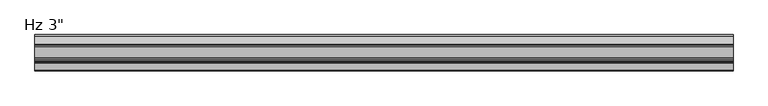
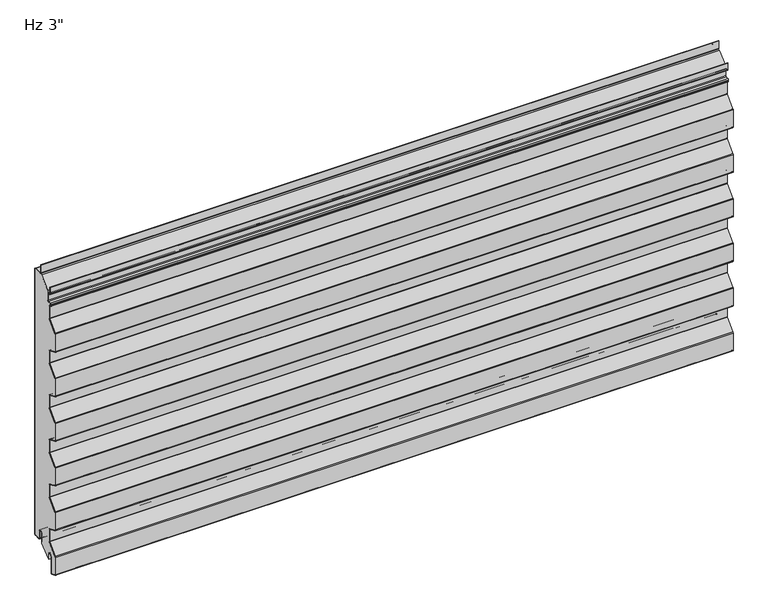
"""IFC4 building model written with IfcOpenShell, lengths in millimetres: plate geometry."""

from ifc_helpers import new_model, si_unit, point, frame, frame_2d, origin, place, context, project, spatial, polyline, circle_curve, trimmed, segment, composite_curve, outline, extrude, source, transform, mapped, element, save


def plate_802be9a2(model_context):
    return source(origin(), model_context, "Body", "SweptSolid", [
        extrude(outline(composite_curve([segment(polyline([(-26.4011912, 19.05), (-26.4011912, -3.1976612), (-49.233822, -23.01875), (-51.3886912, -23.01875), (-51.3886912, -11.90625)]), True, "CONTINUOUS"), segment(trimmed(circle_curve(frame_2d((-56.3574412, -11.90625)), 4.96875), [point((-51.3886912, -11.90625))], [point((-61.3261912, -11.90625))], True, "CARTESIAN"), True, "CONTINUOUS"), segment(polyline([(-61.3261912, -11.90625), (-61.3261912, -48.8194049)]), True, "CONTINUOUS"), segment(trimmed(circle_curve(frame_2d((-62.7074412, -48.8194049)), 1.38125), [point((-61.3261912, -48.8194049))], [point((-63.2666208, -50.0824052))], False, "CARTESIAN"), True, "CONTINUOUS"), segment(polyline([(-63.2666208, -50.0824052), (-74.3779296, -45.1629946)]), True, "CONTINUOUS"), segment(trimmed(circle_curve(frame_2d((-73.81875, -43.8999943)), 1.38125), [point((-74.3779296, -45.1629946))], [point((-75.2, -43.8999943))], False, "CARTESIAN"), True, "CONTINUOUS"), segment(polyline([(-75.2, -43.8999943), (-75.2, -5.0536946)]), True, "CONTINUOUS"), segment(trimmed(circle_curve(frame_2d((-73.1012, -5.0536946)), 2.0988), [point((-75.2, -5.0536946))], [point((-74.6092077, -3.5939431))], False, "CARTESIAN"), True, "CONTINUOUS"), segment(polyline([(-74.6092077, -3.5939431), (-54.4145567, 17.2682996)]), True, "CONTINUOUS"), segment(trimmed(circle_curve(frame_2d((-56.2737, 19.0679503)), 2.5875), [point((-54.4145567, 17.2682996))], [point((-53.6862, 19.0679503))], True, "CARTESIAN"), True, "CONTINUOUS"), segment(polyline([(-53.6862, 19.0679503), (-53.6862, 45.5917981)]), True, "CONTINUOUS"), segment(trimmed(circle_curve(frame_2d((-56.2737, 45.5917981)), 2.5875), [point((-53.6862, 45.5917981))], [point((-55.2261871, 47.9577806))], True, "CARTESIAN"), True, "CONTINUOUS"), segment(polyline([(-55.2261871, 47.9577806), (-74.3779296, 56.4370054)]), True, "CONTINUOUS"), segment(trimmed(circle_curve(frame_2d((-73.81875, 57.7000057)), 1.38125), [point((-74.3779296, 56.4370054))], [point((-75.2, 57.7000057))], False, "CARTESIAN"), True, "CONTINUOUS"), segment(polyline([(-75.2, 57.7000057), (-75.2, 96.8367131)]), True, "CONTINUOUS"), segment(trimmed(circle_curve(frame_2d((-73.81875, 96.8367131)), 1.38125), [point((-75.2, 96.8367131))], [point((-74.8111912, 97.7973962))], False, "CARTESIAN"), True, "CONTINUOUS"), segment(polyline([(-74.8111912, 97.7973962), (-54.4145567, 118.8682996)]), True, "CONTINUOUS"), segment(trimmed(circle_curve(frame_2d((-56.2737, 120.6679503)), 2.5875), [point((-54.4145567, 118.8682996))], [point((-53.6862, 120.6679503))], True, "CARTESIAN"), True, "CONTINUOUS"), segment(polyline([(-53.6862, 120.6679503), (-53.6862, 147.1917981)]), True, "CONTINUOUS"), segment(trimmed(circle_curve(frame_2d((-56.2737, 147.1917981)), 2.5875), [point((-53.6862, 147.1917981))], [point((-55.2261871, 149.5577806))], True, "CARTESIAN"), True, "CONTINUOUS"), segment(polyline([(-55.2261871, 149.5577806), (-74.3779296, 158.0370054)]), True, "CONTINUOUS"), segment(trimmed(circle_curve(frame_2d((-73.81875, 159.3000057)), 1.38125), [point((-74.3779296, 158.0370054))], [point((-75.2, 159.3000057))], False, "CARTESIAN"), True, "CONTINUOUS"), segment(polyline([(-75.2, 159.3000057), (-75.2, 198.4367131)]), True, "CONTINUOUS"), segment(trimmed(circle_curve(frame_2d((-73.81875, 198.4367131)), 1.38125), [point((-75.2, 198.4367131))], [point((-74.8111912, 199.3973962))], False, "CARTESIAN"), True, "CONTINUOUS"), segment(polyline([(-74.8111912, 199.3973962), (-54.4145567, 220.4682996)]), True, "CONTINUOUS"), segment(trimmed(circle_curve(frame_2d((-56.2737, 222.2679503)), 2.5875), [point((-54.4145567, 220.4682996))], [point((-53.6862, 222.2679503))], True, "CARTESIAN"), True, "CONTINUOUS"), segment(polyline([(-53.6862, 222.2679503), (-53.6862, 248.7917981)]), True, "CONTINUOUS"), segment(trimmed(circle_curve(frame_2d((-56.2737, 248.7917981)), 2.5875), [point((-53.6862, 248.7917981))], [point((-55.2261871, 251.1577806))], True, "CARTESIAN"), True, "CONTINUOUS"), segment(polyline([(-55.2261871, 251.1577806), (-74.3779296, 259.6370054)]), True, "CONTINUOUS"), segment(trimmed(circle_curve(frame_2d((-73.81875, 260.9000057)), 1.38125), [point((-74.3779296, 259.6370054))], [point((-75.2, 260.9000057))], False, "CARTESIAN"), True, "CONTINUOUS"), segment(polyline([(-75.2, 260.9000057), (-75.2, 300.0367131)]), True, "CONTINUOUS"), segment(trimmed(circle_curve(frame_2d((-73.81875, 300.0367131)), 1.38125), [point((-75.2, 300.0367131))], [point((-74.8111912, 300.9973962))], False, "CARTESIAN"), True, "CONTINUOUS"), segment(polyline([(-74.8111912, 300.9973962), (-54.4145567, 322.0682996)]), True, "CONTINUOUS"), segment(trimmed(circle_curve(frame_2d((-56.2737, 323.8679503)), 2.5875), [point((-54.4145567, 322.0682996))], [point((-53.6862, 323.8679503))], True, "CARTESIAN"), True, "CONTINUOUS"), segment(polyline([(-53.6862, 323.8679503), (-53.6862, 350.3917981)]), True, "CONTINUOUS"), segment(trimmed(circle_curve(frame_2d((-56.2737, 350.3917981)), 2.5875), [point((-53.6862, 350.3917981))], [point((-55.2261871, 352.7577806))], True, "CARTESIAN"), True, "CONTINUOUS"), segment(polyline([(-55.2261871, 352.7577806), (-74.3779296, 361.2370054)]), True, "CONTINUOUS"), segment(trimmed(circle_curve(frame_2d((-73.81875, 362.5000057)), 1.38125), [point((-74.3779296, 361.2370054))], [point((-75.2, 362.5000057))], False, "CARTESIAN"), True, "CONTINUOUS"), segment(polyline([(-75.2, 362.5000057), (-75.2, 401.6367131)]), True, "CONTINUOUS"), segment(trimmed(circle_curve(frame_2d((-73.81875, 401.6367131)), 1.38125), [point((-75.2, 401.6367131))], [point((-74.8111912, 402.5973962))], False, "CARTESIAN"), True, "CONTINUOUS"), segment(polyline([(-74.8111912, 402.5973962), (-54.4145567, 423.6682996)]), True, "CONTINUOUS"), segment(trimmed(circle_curve(frame_2d((-56.2737, 425.4679503)), 2.5875), [point((-54.4145567, 423.6682996))], [point((-53.6862, 425.4679503))], True, "CARTESIAN"), True, "CONTINUOUS"), segment(polyline([(-53.6862, 425.4679503), (-53.6862, 451.9917981)]), True, "CONTINUOUS"), segment(trimmed(circle_curve(frame_2d((-56.2737, 451.9917981)), 2.5875), [point((-53.6862, 451.9917981))], [point((-55.2261871, 454.3577806))], True, "CARTESIAN"), True, "CONTINUOUS"), segment(polyline([(-55.2261871, 454.3577806), (-74.3779296, 462.8370054)]), True, "CONTINUOUS"), segment(trimmed(circle_curve(frame_2d((-73.81875, 464.1000057)), 1.38125), [point((-74.3779296, 462.8370054))], [point((-75.2, 464.1000057))], False, "CARTESIAN"), True, "CONTINUOUS"), segment(polyline([(-75.2, 464.1000057), (-75.2, 503.2367131)]), True, "CONTINUOUS"), segment(trimmed(circle_curve(frame_2d((-73.81875, 503.2367131)), 1.38125), [point((-75.2, 503.2367131))], [point((-74.8111912, 504.1973962))], False, "CARTESIAN"), True, "CONTINUOUS"), segment(polyline([(-74.8111912, 504.1973962), (-54.4145567, 525.2682996)]), True, "CONTINUOUS"), segment(trimmed(circle_curve(frame_2d((-56.2737, 527.0679503)), 2.5875), [point((-54.4145567, 525.2682996))], [point((-53.6862, 527.0679503))], True, "CARTESIAN"), True, "CONTINUOUS"), segment(polyline([(-53.6862, 527.0679503), (-53.6862, 553.5917981)]), True, "CONTINUOUS"), segment(trimmed(circle_curve(frame_2d((-56.2737, 553.5917981)), 2.5875), [point((-53.6862, 553.5917981))], [point((-55.2261871, 555.9577806))], True, "CARTESIAN"), True, "CONTINUOUS"), segment(polyline([(-55.2261871, 555.9577806), (-56.9166208, 556.7062016)]), True, "CONTINUOUS"), segment(trimmed(circle_curve(frame_2d((-56.3574412, 557.9692019)), 1.38125), [point((-56.9166208, 556.7062016))], [point((-57.7386912, 557.9692019))], False, "CARTESIAN"), True, "CONTINUOUS"), segment(polyline([(-57.7386912, 557.9692019), (-57.7386912, 560.2967085)]), True, "CONTINUOUS"), segment(trimmed(circle_curve(frame_2d((-56.3574412, 560.2967085)), 1.38125), [point((-57.7386912, 560.2967085))], [point((-56.4297302, 561.6760655))], False, "CARTESIAN"), True, "CONTINUOUS"), segment(polyline([(-56.4297302, 561.6760655), (-50.6657719, 561.9781418)]), True, "CONTINUOUS"), segment(trimmed(circle_curve(frame_2d((-50.8011912, 564.5620957)), 2.5875), [point((-50.6657719, 561.9781418))], [point((-48.2136912, 564.5620957))], True, "CARTESIAN"), True, "CONTINUOUS"), segment(polyline([(-48.2136912, 564.5620957), (-48.2136912, 586.9892934), (-24.8719682, 607.80625), (-2.3824412, 607.80625)]), True, "CONTINUOUS"), segment(trimmed(circle_curve(frame_2d((-2.3824412, 606.425)), 1.38125), [point((-2.3824412, 607.80625))], [point((-1.0011912, 606.425))], False, "CARTESIAN"), True, "CONTINUOUS"), segment(polyline([(-1.0011912, 606.425), (-1.0011912, 3.175)]), True, "CONTINUOUS"), segment(trimmed(circle_curve(frame_2d((-2.3824412, 3.175)), 1.38125), [point((-1.0011912, 3.175))], [point((-2.3824412, 1.79375))], False, "CARTESIAN"), True, "CONTINUOUS"), segment(polyline([(-2.3824412, 1.79375), (-15.0824412, 1.79375)]), True, "CONTINUOUS"), segment(trimmed(circle_curve(frame_2d((-15.0824412, 3.175)), 1.38125), [point((-15.0824412, 1.79375))], [point((-16.4636912, 3.175))], False, "CARTESIAN"), True, "CONTINUOUS"), segment(polyline([(-16.4636912, 3.175), (-16.4636912, 19.05)]), True, "CONTINUOUS"), segment(trimmed(circle_curve(frame_2d((-21.4324412, 19.05)), 4.96875), [point((-16.4636912, 19.05))], [point((-26.4011912, 19.05))], True, "CARTESIAN"), True, "CONTINUOUS")], self_intersect=False)), frame((-730.0, 0.0, 0.0), z_axis=(1.0, 0.0, 0.0), x_axis=(0.0, 1.0, 0.0)), (0.0, 0.0, 1.0), 1460.0),
        extrude(outline(composite_curve([segment(polyline([(-25.4, 0.79375), (-26.4, 0.79375), (-26.4, 19.05)]), True, "CONTINUOUS"), segment(trimmed(circle_curve(frame_2d((-21.43125, 19.05)), 4.96875), [point((-26.4, 19.05))], [point((-16.4625, 19.05))], False, "CARTESIAN"), True, "CONTINUOUS"), segment(polyline([(-16.4625, 19.05), (-16.4625, 3.175)]), True, "CONTINUOUS"), segment(trimmed(circle_curve(frame_2d((-15.08125, 3.175)), 1.38125), [point((-16.4625, 3.175))], [point((-15.08125, 1.79375))], True, "CARTESIAN"), True, "CONTINUOUS"), segment(polyline([(-15.08125, 1.79375), (-2.38125, 1.79375)]), True, "CONTINUOUS"), segment(trimmed(circle_curve(frame_2d((-2.38125, 3.175)), 1.38125), [point((-2.38125, 1.79375))], [point((-1.0, 3.175))], True, "CARTESIAN"), True, "CONTINUOUS"), segment(polyline([(-1.0, 3.175), (-1.0, 606.425)]), True, "CONTINUOUS"), segment(trimmed(circle_curve(frame_2d((-2.38125, 606.425)), 1.38125), [point((-1.0, 606.425))], [point((-2.38125, 607.80625))], True, "CARTESIAN"), True, "CONTINUOUS"), segment(polyline([(-2.38125, 607.80625), (-19.446875, 607.80625)]), True, "CONTINUOUS"), segment(trimmed(circle_curve(frame_2d((-19.446875, 610.39375)), 2.5875), [point((-19.446875, 607.80625))], [point((-22.034375, 610.39375))], False, "CARTESIAN"), True, "CONTINUOUS"), segment(polyline([(-22.034375, 610.39375), (-22.034375, 627.85625), (-21.034375, 627.85625), (-21.034375, 610.39375)]), True, "CONTINUOUS"), segment(trimmed(circle_curve(frame_2d((-19.446875, 610.39375)), 1.5875), [point((-21.034375, 610.39375))], [point((-19.446875, 608.80625))], True, "CARTESIAN"), True, "CONTINUOUS"), segment(polyline([(-19.446875, 608.80625), (-2.38125, 608.80625)]), True, "CONTINUOUS"), segment(trimmed(circle_curve(frame_2d((-2.38125, 606.425)), 2.38125), [point((-2.38125, 608.80625))], [point((0.0, 606.425))], False, "CARTESIAN"), True, "CONTINUOUS"), segment(polyline([(0.0, 606.425), (0.0, 3.175)]), True, "CONTINUOUS"), segment(trimmed(circle_curve(frame_2d((-2.38125, 3.175)), 2.38125), [point((0.0, 3.175))], [point((-2.38125, 0.79375))], False, "CARTESIAN"), True, "CONTINUOUS"), segment(polyline([(-2.38125, 0.79375), (-15.08125, 0.79375)]), True, "CONTINUOUS"), segment(trimmed(circle_curve(frame_2d((-15.08125, 3.175)), 2.38125), [point((-15.08125, 0.79375))], [point((-17.4625, 3.175))], False, "CARTESIAN"), True, "CONTINUOUS"), segment(polyline([(-17.4625, 3.175), (-17.4625, 19.05)]), True, "CONTINUOUS"), segment(trimmed(circle_curve(frame_2d((-21.43125, 19.05)), 3.96875), [point((-17.4625, 19.05))], [point((-25.4, 19.05))], True, "CARTESIAN"), True, "CONTINUOUS"), segment(polyline([(-25.4, 19.05), (-25.4, 0.79375)]), True, "CONTINUOUS")], self_intersect=False)), frame((-730.0, 0.0, 0.0), z_axis=(1.0, 0.0, 0.0), x_axis=(0.0, 1.0, 0.0)), (0.0, 0.0, 1.0), 1460.0),
        extrude(outline(composite_curve([segment(polyline([(-60.3261912, -11.90625), (-60.3261912, -48.8194049)]), True, "CONTINUOUS"), segment(trimmed(circle_curve(frame_2d((-62.7074412, -48.8194049)), 2.38125), [point((-60.3261912, -48.8194049))], [point((-63.6714567, -50.9967946))], False, "CARTESIAN"), True, "CONTINUOUS"), segment(polyline([(-63.6714567, -50.9967946), (-74.7827655, -46.0773839)]), True, "CONTINUOUS"), segment(trimmed(circle_curve(frame_2d((-73.81875, -43.8999943)), 2.38125), [point((-74.7827655, -46.0773839))], [point((-76.2, -43.8999943))], False, "CARTESIAN"), True, "CONTINUOUS"), segment(polyline([(-76.2, -43.8999943), (-76.2, -5.0536946)]), True, "CONTINUOUS"), segment(trimmed(circle_curve(frame_2d((-73.1012, -5.0536946)), 3.0988), [point((-76.2, -5.0536946))], [point((-75.3277172, -2.8984259))], False, "CARTESIAN"), True, "CONTINUOUS"), segment(polyline([(-75.3277172, -2.8984259), (-55.1330662, 17.9638168)]), True, "CONTINUOUS"), segment(trimmed(circle_curve(frame_2d((-56.2737, 19.0679503)), 1.5875), [point((-55.1330662, 17.9638168))], [point((-54.6862, 19.0679503))], True, "CARTESIAN"), True, "CONTINUOUS"), segment(polyline([(-54.6862, 19.0679503), (-54.6862, 45.5917981)]), True, "CONTINUOUS"), segment(trimmed(circle_curve(frame_2d((-56.2737, 45.5917981)), 1.5875), [point((-54.6862, 45.5917981))], [point((-55.631023, 47.0433912))], True, "CARTESIAN"), True, "CONTINUOUS"), segment(polyline([(-55.631023, 47.0433912), (-74.7827655, 55.5226161)]), True, "CONTINUOUS"), segment(trimmed(circle_curve(frame_2d((-73.81875, 57.7000057)), 2.38125), [point((-74.7827655, 55.5226161))], [point((-76.2, 57.7000057))], False, "CARTESIAN"), True, "CONTINUOUS"), segment(polyline([(-76.2, 57.7000057), (-76.2, 96.8367131)]), True, "CONTINUOUS"), segment(trimmed(circle_curve(frame_2d((-73.81875, 96.8367131)), 2.38125), [point((-76.2, 96.8367131))], [point((-75.5297007, 98.4929134))], False, "CARTESIAN"), True, "CONTINUOUS"), segment(polyline([(-75.5297007, 98.4929134), (-55.1330662, 119.5638168)]), True, "CONTINUOUS"), segment(trimmed(circle_curve(frame_2d((-56.2737, 120.6679503)), 1.5875), [point((-55.1330662, 119.5638168))], [point((-54.6862, 120.6679503))], True, "CARTESIAN"), True, "CONTINUOUS"), segment(polyline([(-54.6862, 120.6679503), (-54.6862, 147.1917981)]), True, "CONTINUOUS"), segment(trimmed(circle_curve(frame_2d((-56.2737, 147.1917981)), 1.5875), [point((-54.6862, 147.1917981))], [point((-55.631023, 148.6433912))], True, "CARTESIAN"), True, "CONTINUOUS"), segment(polyline([(-55.631023, 148.6433912), (-74.7827655, 157.1226161)]), True, "CONTINUOUS"), segment(trimmed(circle_curve(frame_2d((-73.81875, 159.3000057)), 2.38125), [point((-74.7827655, 157.1226161))], [point((-76.2, 159.3000057))], False, "CARTESIAN"), True, "CONTINUOUS"), segment(polyline([(-76.2, 159.3000057), (-76.2, 198.4367131)]), True, "CONTINUOUS"), segment(trimmed(circle_curve(frame_2d((-73.81875, 198.4367131)), 2.38125), [point((-76.2, 198.4367131))], [point((-75.5297007, 200.0929134))], False, "CARTESIAN"), True, "CONTINUOUS"), segment(polyline([(-75.5297007, 200.0929134), (-55.1330662, 221.1638168)]), True, "CONTINUOUS"), segment(trimmed(circle_curve(frame_2d((-56.2737, 222.2679503)), 1.5875), [point((-55.1330662, 221.1638168))], [point((-54.6862, 222.2679503))], True, "CARTESIAN"), True, "CONTINUOUS"), segment(polyline([(-54.6862, 222.2679503), (-54.6862, 248.7917981)]), True, "CONTINUOUS"), segment(trimmed(circle_curve(frame_2d((-56.2737, 248.7917981)), 1.5875), [point((-54.6862, 248.7917981))], [point((-55.631023, 250.2433912))], True, "CARTESIAN"), True, "CONTINUOUS"), segment(polyline([(-55.631023, 250.2433912), (-74.7827655, 258.7226161)]), True, "CONTINUOUS"), segment(trimmed(circle_curve(frame_2d((-73.81875, 260.9000057)), 2.38125), [point((-74.7827655, 258.7226161))], [point((-76.2, 260.9000057))], False, "CARTESIAN"), True, "CONTINUOUS"), segment(polyline([(-76.2, 260.9000057), (-76.2, 300.0367131)]), True, "CONTINUOUS"), segment(trimmed(circle_curve(frame_2d((-73.81875, 300.0367131)), 2.38125), [point((-76.2, 300.0367131))], [point((-75.5297007, 301.6929134))], False, "CARTESIAN"), True, "CONTINUOUS"), segment(polyline([(-75.5297007, 301.6929134), (-55.1330662, 322.7638168)]), True, "CONTINUOUS"), segment(trimmed(circle_curve(frame_2d((-56.2737, 323.8679503)), 1.5875), [point((-55.1330662, 322.7638168))], [point((-54.6862, 323.8679503))], True, "CARTESIAN"), True, "CONTINUOUS"), segment(polyline([(-54.6862, 323.8679503), (-54.6862, 350.3917981)]), True, "CONTINUOUS"), segment(trimmed(circle_curve(frame_2d((-56.2737, 350.3917981)), 1.5875), [point((-54.6862, 350.3917981))], [point((-55.631023, 351.8433912))], True, "CARTESIAN"), True, "CONTINUOUS"), segment(polyline([(-55.631023, 351.8433912), (-74.7827655, 360.3226161)]), True, "CONTINUOUS"), segment(trimmed(circle_curve(frame_2d((-73.81875, 362.5000057)), 2.38125), [point((-74.7827655, 360.3226161))], [point((-76.2, 362.5000057))], False, "CARTESIAN"), True, "CONTINUOUS"), segment(polyline([(-76.2, 362.5000057), (-76.2, 401.6367131)]), True, "CONTINUOUS"), segment(trimmed(circle_curve(frame_2d((-73.81875, 401.6367131)), 2.38125), [point((-76.2, 401.6367131))], [point((-75.5297007, 403.2929134))], False, "CARTESIAN"), True, "CONTINUOUS"), segment(polyline([(-75.5297007, 403.2929134), (-55.1330662, 424.3638168)]), True, "CONTINUOUS"), segment(trimmed(circle_curve(frame_2d((-56.2737, 425.4679503)), 1.5875), [point((-55.1330662, 424.3638168))], [point((-54.6862, 425.4679503))], True, "CARTESIAN"), True, "CONTINUOUS"), segment(polyline([(-54.6862, 425.4679503), (-54.6862, 451.9917981)]), True, "CONTINUOUS"), segment(trimmed(circle_curve(frame_2d((-56.2737, 451.9917981)), 1.5875), [point((-54.6862, 451.9917981))], [point((-55.631023, 453.4433912))], True, "CARTESIAN"), True, "CONTINUOUS"), segment(polyline([(-55.631023, 453.4433912), (-74.7827655, 461.9226161)]), True, "CONTINUOUS"), segment(trimmed(circle_curve(frame_2d((-73.81875, 464.1000057)), 2.38125), [point((-74.7827655, 461.9226161))], [point((-76.2, 464.1000057))], False, "CARTESIAN"), True, "CONTINUOUS"), segment(polyline([(-76.2, 464.1000057), (-76.2, 503.2367131)]), True, "CONTINUOUS"), segment(trimmed(circle_curve(frame_2d((-73.81875, 503.2367131)), 2.38125), [point((-76.2, 503.2367131))], [point((-75.5297007, 504.8929134))], False, "CARTESIAN"), True, "CONTINUOUS"), segment(polyline([(-75.5297007, 504.8929134), (-55.1330662, 525.9638168)]), True, "CONTINUOUS"), segment(trimmed(circle_curve(frame_2d((-56.2737, 527.0679503)), 1.5875), [point((-55.1330662, 525.9638168))], [point((-54.6862, 527.0679503))], True, "CARTESIAN"), True, "CONTINUOUS"), segment(polyline([(-54.6862, 527.0679503), (-54.6862, 553.5917981)]), True, "CONTINUOUS"), segment(trimmed(circle_curve(frame_2d((-56.2737, 553.5917981)), 1.5875), [point((-54.6862, 553.5917981))], [point((-55.631023, 555.0433912))], True, "CARTESIAN"), True, "CONTINUOUS"), segment(polyline([(-55.631023, 555.0433912), (-57.3214567, 555.7918123)]), True, "CONTINUOUS"), segment(trimmed(circle_curve(frame_2d((-56.3574412, 557.9692019)), 2.38125), [point((-57.3214567, 555.7918123))], [point((-58.7386912, 557.9692019))], False, "CARTESIAN"), True, "CONTINUOUS"), segment(polyline([(-58.7386912, 557.9692019), (-58.7386912, 560.2967085)]), True, "CONTINUOUS"), segment(trimmed(circle_curve(frame_2d((-56.3574412, 560.2967085)), 2.38125), [point((-58.7386912, 560.2967085))], [point((-56.4820662, 562.6746951))], False, "CARTESIAN"), True, "CONTINUOUS"), segment(polyline([(-56.4820662, 562.6746951), (-50.7181078, 562.9767713)]), True, "CONTINUOUS"), segment(trimmed(circle_curve(frame_2d((-50.8011912, 564.5620957)), 1.5875), [point((-50.7181078, 562.9767713))], [point((-49.2136912, 564.5620957))], True, "CARTESIAN"), True, "CONTINUOUS"), segment(polyline([(-49.2136912, 564.5620957), (-49.2136912, 579.4375)]), True, "CONTINUOUS"), segment(trimmed(circle_curve(frame_2d((-50.8011912, 579.4375)), 1.5875), [point((-49.2136912, 579.4375))], [point((-50.8011912, 581.025))], True, "CARTESIAN"), True, "CONTINUOUS"), segment(polyline([(-50.8011912, 581.025), (-54.3730662, 581.025)]), True, "CONTINUOUS"), segment(trimmed(circle_curve(frame_2d((-54.3730662, 583.40625)), 2.38125), [point((-54.3730662, 581.025))], [point((-56.7543162, 583.40625))], False, "CARTESIAN"), True, "CONTINUOUS"), segment(polyline([(-56.7543162, 583.40625), (-56.7543162, 597.69375), (-55.7543162, 597.69375), (-55.7543162, 583.40625)]), True, "CONTINUOUS"), segment(trimmed(circle_curve(frame_2d((-54.3730662, 583.40625)), 1.38125), [point((-55.7543162, 583.40625))], [point((-54.3730662, 582.025))], True, "CARTESIAN"), True, "CONTINUOUS"), segment(polyline([(-54.3730662, 582.025), (-50.8011912, 582.025)]), True, "CONTINUOUS"), segment(trimmed(circle_curve(frame_2d((-50.8011912, 579.4375)), 2.5875), [point((-50.8011912, 582.025))], [point((-48.2136912, 579.4375))], False, "CARTESIAN"), True, "CONTINUOUS"), segment(polyline([(-48.2136912, 579.4375), (-48.2136912, 564.5620957)]), True, "CONTINUOUS"), segment(trimmed(circle_curve(frame_2d((-50.8011912, 564.5620957)), 2.5875), [point((-48.2136912, 564.5620957))], [point((-50.6657719, 561.9781418))], False, "CARTESIAN"), True, "CONTINUOUS"), segment(polyline([(-50.6657719, 561.9781418), (-56.4297302, 561.6760655)]), True, "CONTINUOUS"), segment(trimmed(circle_curve(frame_2d((-56.3574412, 560.2967085)), 1.38125), [point((-56.4297302, 561.6760655))], [point((-57.7386912, 560.2967085))], True, "CARTESIAN"), True, "CONTINUOUS"), segment(polyline([(-57.7386912, 560.2967085), (-57.7386912, 557.9692019)]), True, "CONTINUOUS"), segment(trimmed(circle_curve(frame_2d((-56.3574412, 557.9692019)), 1.38125), [point((-57.7386912, 557.9692019))], [point((-56.9166208, 556.7062016))], True, "CARTESIAN"), True, "CONTINUOUS"), segment(polyline([(-56.9166208, 556.7062016), (-55.2261871, 555.9577806)]), True, "CONTINUOUS"), segment(trimmed(circle_curve(frame_2d((-56.2737, 553.5917981)), 2.5875), [point((-55.2261871, 555.9577806))], [point((-53.6862, 553.5917981))], False, "CARTESIAN"), True, "CONTINUOUS"), segment(polyline([(-53.6862, 553.5917981), (-53.6862, 527.0679503)]), True, "CONTINUOUS"), segment(trimmed(circle_curve(frame_2d((-56.2737, 527.0679503)), 2.5875), [point((-53.6862, 527.0679503))], [point((-54.4145567, 525.2682996))], False, "CARTESIAN"), True, "CONTINUOUS"), segment(polyline([(-54.4145567, 525.2682996), (-74.8111912, 504.1973962)]), True, "CONTINUOUS"), segment(trimmed(circle_curve(frame_2d((-73.81875, 503.2367131)), 1.38125), [point((-74.8111912, 504.1973962))], [point((-75.2, 503.2367131))], True, "CARTESIAN"), True, "CONTINUOUS"), segment(polyline([(-75.2, 503.2367131), (-75.2, 464.1000057)]), True, "CONTINUOUS"), segment(trimmed(circle_curve(frame_2d((-73.81875, 464.1000057)), 1.38125), [point((-75.2, 464.1000057))], [point((-74.3779296, 462.8370054))], True, "CARTESIAN"), True, "CONTINUOUS"), segment(polyline([(-74.3779296, 462.8370054), (-55.2261871, 454.3577806)]), True, "CONTINUOUS"), segment(trimmed(circle_curve(frame_2d((-56.2737, 451.9917981)), 2.5875), [point((-55.2261871, 454.3577806))], [point((-53.6862, 451.9917981))], False, "CARTESIAN"), True, "CONTINUOUS"), segment(polyline([(-53.6862, 451.9917981), (-53.6862, 425.4679503)]), True, "CONTINUOUS"), segment(trimmed(circle_curve(frame_2d((-56.2737, 425.4679503)), 2.5875), [point((-53.6862, 425.4679503))], [point((-54.4145567, 423.6682996))], False, "CARTESIAN"), True, "CONTINUOUS"), segment(polyline([(-54.4145567, 423.6682996), (-74.8111912, 402.5973962)]), True, "CONTINUOUS"), segment(trimmed(circle_curve(frame_2d((-73.81875, 401.6367131)), 1.38125), [point((-74.8111912, 402.5973962))], [point((-75.2, 401.6367131))], True, "CARTESIAN"), True, "CONTINUOUS"), segment(polyline([(-75.2, 401.6367131), (-75.2, 362.5000057)]), True, "CONTINUOUS"), segment(trimmed(circle_curve(frame_2d((-73.81875, 362.5000057)), 1.38125), [point((-75.2, 362.5000057))], [point((-74.3779296, 361.2370054))], True, "CARTESIAN"), True, "CONTINUOUS"), segment(polyline([(-74.3779296, 361.2370054), (-55.2261871, 352.7577806)]), True, "CONTINUOUS"), segment(trimmed(circle_curve(frame_2d((-56.2737, 350.3917981)), 2.5875), [point((-55.2261871, 352.7577806))], [point((-53.6862, 350.3917981))], False, "CARTESIAN"), True, "CONTINUOUS"), segment(polyline([(-53.6862, 350.3917981), (-53.6862, 323.8679503)]), True, "CONTINUOUS"), segment(trimmed(circle_curve(frame_2d((-56.2737, 323.8679503)), 2.5875), [point((-53.6862, 323.8679503))], [point((-54.4145567, 322.0682996))], False, "CARTESIAN"), True, "CONTINUOUS"), segment(polyline([(-54.4145567, 322.0682996), (-74.8111912, 300.9973962)]), True, "CONTINUOUS"), segment(trimmed(circle_curve(frame_2d((-73.81875, 300.0367131)), 1.38125), [point((-74.8111912, 300.9973962))], [point((-75.2, 300.0367131))], True, "CARTESIAN"), True, "CONTINUOUS"), segment(polyline([(-75.2, 300.0367131), (-75.2, 260.9000057)]), True, "CONTINUOUS"), segment(trimmed(circle_curve(frame_2d((-73.81875, 260.9000057)), 1.38125), [point((-75.2, 260.9000057))], [point((-74.3779296, 259.6370054))], True, "CARTESIAN"), True, "CONTINUOUS"), segment(polyline([(-74.3779296, 259.6370054), (-55.2261871, 251.1577806)]), True, "CONTINUOUS"), segment(trimmed(circle_curve(frame_2d((-56.2737, 248.7917981)), 2.5875), [point((-55.2261871, 251.1577806))], [point((-53.6862, 248.7917981))], False, "CARTESIAN"), True, "CONTINUOUS"), segment(polyline([(-53.6862, 248.7917981), (-53.6862, 222.2679503)]), True, "CONTINUOUS"), segment(trimmed(circle_curve(frame_2d((-56.2737, 222.2679503)), 2.5875), [point((-53.6862, 222.2679503))], [point((-54.4145567, 220.4682996))], False, "CARTESIAN"), True, "CONTINUOUS"), segment(polyline([(-54.4145567, 220.4682996), (-74.8111912, 199.3973962)]), True, "CONTINUOUS"), segment(trimmed(circle_curve(frame_2d((-73.81875, 198.4367131)), 1.38125), [point((-74.8111912, 199.3973962))], [point((-75.2, 198.4367131))], True, "CARTESIAN"), True, "CONTINUOUS"), segment(polyline([(-75.2, 198.4367131), (-75.2, 159.3000057)]), True, "CONTINUOUS"), segment(trimmed(circle_curve(frame_2d((-73.81875, 159.3000057)), 1.38125), [point((-75.2, 159.3000057))], [point((-74.3779296, 158.0370054))], True, "CARTESIAN"), True, "CONTINUOUS"), segment(polyline([(-74.3779296, 158.0370054), (-55.2261871, 149.5577806)]), True, "CONTINUOUS"), segment(trimmed(circle_curve(frame_2d((-56.2737, 147.1917981)), 2.5875), [point((-55.2261871, 149.5577806))], [point((-53.6862, 147.1917981))], False, "CARTESIAN"), True, "CONTINUOUS"), segment(polyline([(-53.6862, 147.1917981), (-53.6862, 120.6679503)]), True, "CONTINUOUS"), segment(trimmed(circle_curve(frame_2d((-56.2737, 120.6679503)), 2.5875), [point((-53.6862, 120.6679503))], [point((-54.4145567, 118.8682996))], False, "CARTESIAN"), True, "CONTINUOUS"), segment(polyline([(-54.4145567, 118.8682996), (-74.8111912, 97.7973962)]), True, "CONTINUOUS"), segment(trimmed(circle_curve(frame_2d((-73.81875, 96.8367131)), 1.38125), [point((-74.8111912, 97.7973962))], [point((-75.2, 96.8367131))], True, "CARTESIAN"), True, "CONTINUOUS"), segment(polyline([(-75.2, 96.8367131), (-75.2, 57.7000057)]), True, "CONTINUOUS"), segment(trimmed(circle_curve(frame_2d((-73.81875, 57.7000057)), 1.38125), [point((-75.2, 57.7000057))], [point((-74.3779296, 56.4370054))], True, "CARTESIAN"), True, "CONTINUOUS"), segment(polyline([(-74.3779296, 56.4370054), (-55.2261871, 47.9577806)]), True, "CONTINUOUS"), segment(trimmed(circle_curve(frame_2d((-56.2737, 45.5917981)), 2.5875), [point((-55.2261871, 47.9577806))], [point((-53.6862, 45.5917981))], False, "CARTESIAN"), True, "CONTINUOUS"), segment(polyline([(-53.6862, 45.5917981), (-53.6862, 19.0679503)]), True, "CONTINUOUS"), segment(trimmed(circle_curve(frame_2d((-56.2737, 19.0679503)), 2.5875), [point((-53.6862, 19.0679503))], [point((-54.4145567, 17.2682996))], False, "CARTESIAN"), True, "CONTINUOUS"), segment(polyline([(-54.4145567, 17.2682996), (-74.6092077, -3.5939431)]), True, "CONTINUOUS"), segment(trimmed(circle_curve(frame_2d((-73.1012, -5.0536946)), 2.0988), [point((-74.6092077, -3.5939431))], [point((-75.2, -5.0536946))], True, "CARTESIAN"), True, "CONTINUOUS"), segment(polyline([(-75.2, -5.0536946), (-75.2, -43.8999943)]), True, "CONTINUOUS"), segment(trimmed(circle_curve(frame_2d((-73.81875, -43.8999943)), 1.38125), [point((-75.2, -43.8999943))], [point((-74.3779296, -45.1629946))], True, "CARTESIAN"), True, "CONTINUOUS"), segment(polyline([(-74.3779296, -45.1629946), (-63.2666208, -50.0824052)]), True, "CONTINUOUS"), segment(trimmed(circle_curve(frame_2d((-62.7074412, -48.8194049)), 1.38125), [point((-63.2666208, -50.0824052))], [point((-61.3261912, -48.8194049))], True, "CARTESIAN"), True, "CONTINUOUS"), segment(polyline([(-61.3261912, -48.8194049), (-61.3261912, -11.90625)]), True, "CONTINUOUS"), segment(trimmed(circle_curve(frame_2d((-56.3574412, -11.90625)), 4.96875), [point((-61.3261912, -11.90625))], [point((-51.3886912, -11.90625))], False, "CARTESIAN"), True, "CONTINUOUS"), segment(polyline([(-51.3886912, -11.90625), (-51.3886912, -23.01875), (-52.3886912, -23.01875), (-52.3886912, -11.90625)]), True, "CONTINUOUS"), segment(trimmed(circle_curve(frame_2d((-56.3574412, -11.90625)), 3.96875), [point((-52.3886912, -11.90625))], [point((-60.3261912, -11.90625))], True, "CARTESIAN"), True, "CONTINUOUS")], self_intersect=False)), frame((-730.0, 0.0, 0.0), z_axis=(1.0, 0.0, 0.0), x_axis=(0.0, 1.0, 0.0)), (0.0, 0.0, 1.0), 1460.0),
    ])


if __name__ == "__main__":
    model = new_model("IFC4")
    model_context = context("Model", 3, world=origin())
    ifc_project = project(units=[si_unit("LENGTHUNIT", "METRE", prefix="MILLI")], contexts=[model_context])
    site = spatial("IfcSite", under=ifc_project)
    building = spatial("IfcBuilding", under=site)
    placement = place(None, origin())
    plate_shape = plate_802be9a2(model_context)
    element("IfcPlate", 1, ObjectType="KIP-24-DWR-R19-CP-Hz-S : Hz 3\"", at=placement, inside=building, context=model_context, shape_type="MappedRepresentation", body=[
        mapped(plate_shape, transform((0.0, 0.0, 0.0), x_axis=(1.0, 0.0, 0.0), y_axis=(0.0, 1.0, 0.0), z_axis=(0.0, 0.0, 1.0))),
    ])
    save(model, "model.ifc")
